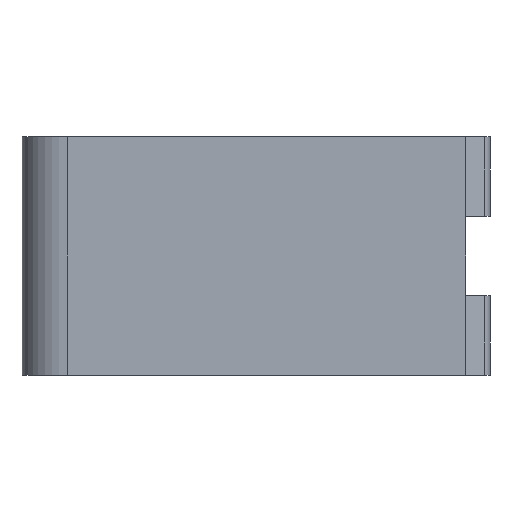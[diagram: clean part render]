
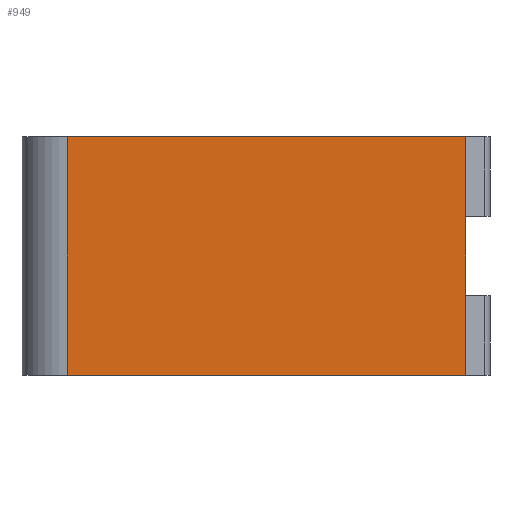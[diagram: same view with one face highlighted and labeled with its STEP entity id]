
A CAD part, front view. The second image highlights one B-rep face of the part: STEP entity #949.
In plain terms, the highlighted planar face has unit normal (0, -1, 0).
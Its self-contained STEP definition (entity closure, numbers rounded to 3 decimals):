
#111=FACE_OUTER_BOUND('',#160,.T.);
#160=EDGE_LOOP('',(#794,#795,#796,#797));
#254=LINE('',#1572,#355);
#255=LINE('',#1575,#356);
#256=LINE('',#1577,#357);
#257=LINE('',#1578,#358);
#355=VECTOR('',#1290,10.);
#356=VECTOR('',#1293,10.);
#357=VECTOR('',#1294,10.);
#358=VECTOR('',#1295,10.);
#447=VERTEX_POINT('',#1568);
#448=VERTEX_POINT('',#1570);
#449=VERTEX_POINT('',#1574);
#450=VERTEX_POINT('',#1576);
#578=EDGE_CURVE('',#447,#448,#254,.T.);
#579=EDGE_CURVE('',#449,#447,#255,.T.);
#580=EDGE_CURVE('',#450,#448,#256,.T.);
#581=EDGE_CURVE('',#449,#450,#257,.T.);
#794=ORIENTED_EDGE('',*,*,#579,.T.);
#795=ORIENTED_EDGE('',*,*,#578,.T.);
#796=ORIENTED_EDGE('',*,*,#580,.F.);
#797=ORIENTED_EDGE('',*,*,#581,.F.);
#903=PLANE('',#1044);
#949=ADVANCED_FACE('',(#111),#903,.T.);
#1044=AXIS2_PLACEMENT_3D('',#1573,#1291,#1292);
#1290=DIRECTION('',(0.,0.,1.));
#1291=DIRECTION('center_axis',(0.,-1.,0.));
#1292=DIRECTION('ref_axis',(1.,0.,0.));
#1293=DIRECTION('',(1.,0.,0.));
#1294=DIRECTION('',(1.,0.,0.));
#1295=DIRECTION('',(0.,0.,1.));
#1568=CARTESIAN_POINT('',(49.346,-65.277,0.));
#1570=CARTESIAN_POINT('',(49.346,-65.277,50.));
#1572=CARTESIAN_POINT('',(49.346,-65.277,0.));
#1573=CARTESIAN_POINT('Origin',(-34.2,-65.277,0.));
#1574=CARTESIAN_POINT('',(-34.2,-65.277,0.));
#1575=CARTESIAN_POINT('',(-34.2,-65.277,0.));
#1576=CARTESIAN_POINT('',(-34.2,-65.277,50.));
#1577=CARTESIAN_POINT('',(-34.2,-65.277,50.));
#1578=CARTESIAN_POINT('',(-34.2,-65.277,0.));
